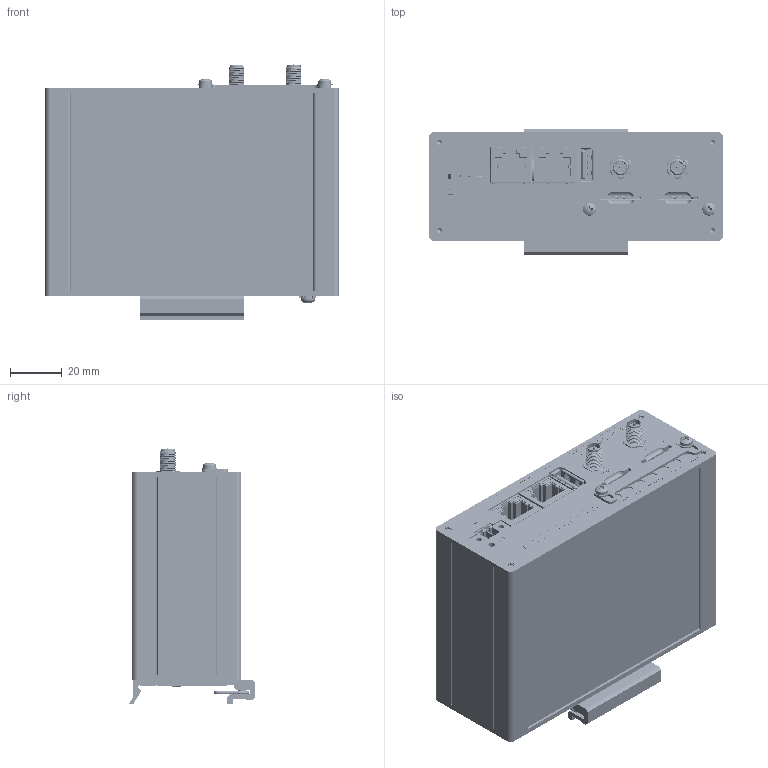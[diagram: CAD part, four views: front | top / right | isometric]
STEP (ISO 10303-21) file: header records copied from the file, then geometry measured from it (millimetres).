
FILE_DESCRIPTION (( 'STEP AP203' ), '1' );
FILE_NAME ('VMC-2021-27-1_Box ICR-2700 LIBRATUM - metal.STEP', '2021-10-20T06:18:38', ( '' ), ( '' ), 'SwSTEP 2.0', 'SolidWorks 2021', '' );
FILE_SCHEMA (( 'CONFIG_CONTROL_DESIGN' ));
Length unit declared in the file: millimetre
Products named in the file (15): ICR-2731_setava desek_upravená verze_v2-part; countersunk flat head cross recess screw_iso_ISO 7046-1 - M2.5 x 5 - Z - 5N; plain washer 10673 type snl_iso_ISO 10673-2.75-S; VMC-2021-09-1-02_ICR-2734 - rear part; hex socket head screws_iso_ISO 14586 - ST2.9 x 13-R-N; VMC-2016-55-1_CKD-SBD40 v2; pan head cross recess screw_din_DIN EN ISO 7045 - M2.5 x 5 - Z - 5N; VMC-2021-27-1-01_ICR-2700 LIBRATUM - front part; VMC-2017-06-1_CKK2 box - støíbrný; VMC-2021-08-1-02_ICR-2734 - SIM cover; VMC-2016-55-1-02_CKD-SBD40 kolik; VMC-2021-27-1_Box ICR-2700 LIBRATUM - metal; VMC-2016-55-1-03_CKD-SBD40 pero; Zemnící šroub___; VMC-2016-55-1-01_CKD-SBD40 profil
Assembly tree (26 placements, depth 3):
  VMC-2021-27-1_Box ICR-2700 LIBRATUM - metal
    VMC-2021-27-1-01_ICR-2700 LIBRATUM - front part
    VMC-2021-09-1-02_ICR-2734 - rear part
    VMC-2017-06-1_CKK2 box - støíbrný
    VMC-2021-08-1-02_ICR-2734 - SIM cover
    VMC-2016-55-1_CKD-SBD40 v2
      VMC-2016-55-1-01_CKD-SBD40 profil
      VMC-2016-55-1-02_CKD-SBD40 kolik
      VMC-2016-55-1-03_CKD-SBD40 pero
    plain washer 10673 type snl_iso_ISO 10673-2.75-S  x2
    ICR-2731_setava desek_upravená verze_v2-part
    countersunk flat head cross recess screw_iso_ISO 7046-1 - M2.5 x 5 - Z - 5N  x4
    hex socket head screws_iso_ISO 14586 - ST2.9 x 13-R-N  x8
    pan head cross recess screw_din_DIN EN ISO 7045 - M2.5 x 5 - Z - 5N  x2
    Zemnící šroub___
Bounding box: 113.2 x 48.57 x 98.63 mm (x, y, z)
Volume: 69353.5 mm3; surface area: 128661.6 mm2
Topology: 25 solids, 1056 shells, 7027 faces, 26604 edges, 20372 vertices
Faces by surface type: plane 5116, cylinder 1054, bspline 545, cone 231, torus 77, sphere 4
Entity records: 320652 total; most frequent: CARTESIAN_POINT 113500, DIRECTION 38343, ORIENTED_EDGE 37725, EDGE_CURVE 25753, VERTEX_POINT 19914, VECTOR 18965, LINE 18965, AXIS2_PLACEMENT_3D 9689
